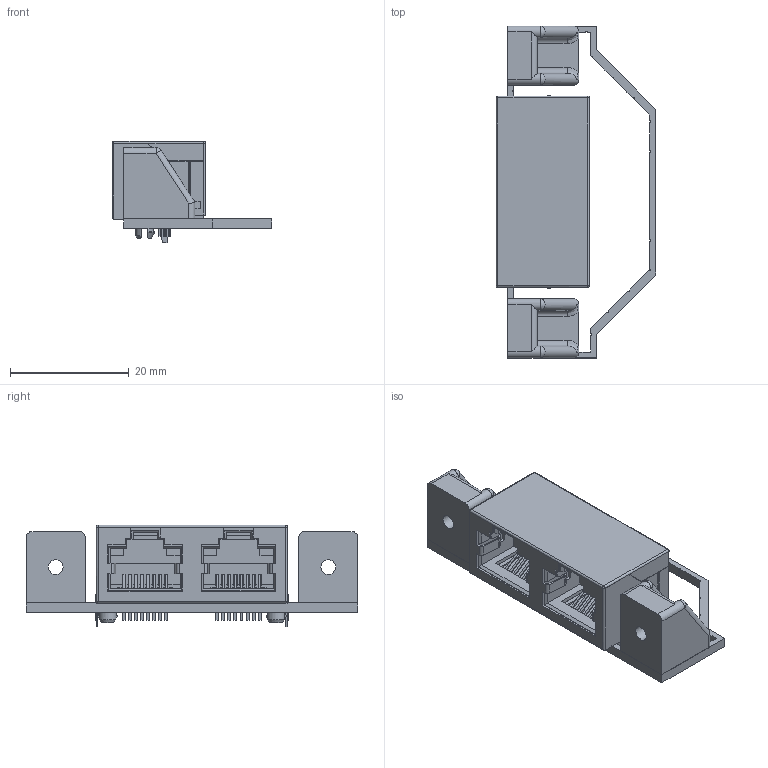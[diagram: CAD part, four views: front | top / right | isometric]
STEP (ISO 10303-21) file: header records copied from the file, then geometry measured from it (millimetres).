
FILE_DESCRIPTION(/* description */ (''),/* implementation_level */ '2;1');
FILE_NAME(/* name */ 'rj45-carrier-dmx v2.step',/* time_stamp */ '2025-08-11T13:08:06-05:00',/* author */ (''),/* organization */ (''),/* preprocessor_version */ 'ST-DEVELOPER v20.1',/* originating_system */ 'Autodesk Translation Framework v14.10.0.0',/* authorisation */ '');
FILE_SCHEMA (('AUTOMOTIVE_DESIGN { 1 0 10303 214 3 1 1 }'));
Length unit declared in the file: millimetre
Products named in the file (5): rj45-carrier-dmx; nled-rj45-carrier-p1a; Board; Packages; CUI_CRJ046-3-TH
Assembly tree (4 placements, depth 4):
  rj45-carrier-dmx
    nled-rj45-carrier-p1a
      Board
      Packages
        CUI_CRJ046-3-TH
Bounding box: 26.97 x 56 x 17.13 mm (x, y, z)
Volume: 5827.8 mm3; surface area: 9247.1 mm2
Topology: 20 solids, 20 shells, 892 faces, 2366 edges, 1537 vertices
Faces by surface type: plane 782, cylinder 88, bspline 10, cone 6, sphere 6
Full cylindrical faces by diameter (mm): 2 x2, 2.5 x2
Entity records: 27658 total; most frequent: CARTESIAN_POINT 5289, ORIENTED_EDGE 4724, DIRECTION 4335, EDGE_CURVE 2362, LINE 2139, VECTOR 2139, VERTEX_POINT 1537, AXIS2_PLACEMENT_3D 1098
